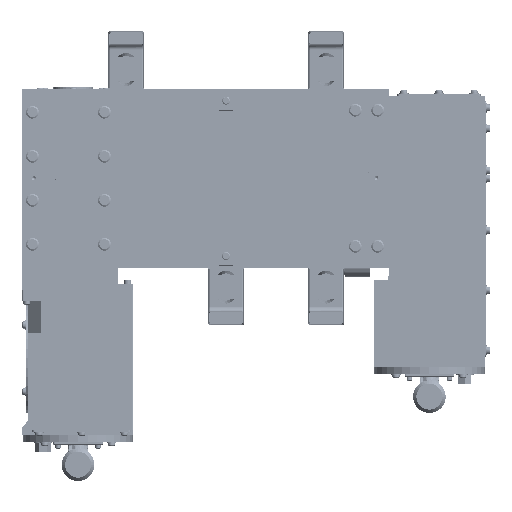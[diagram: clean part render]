
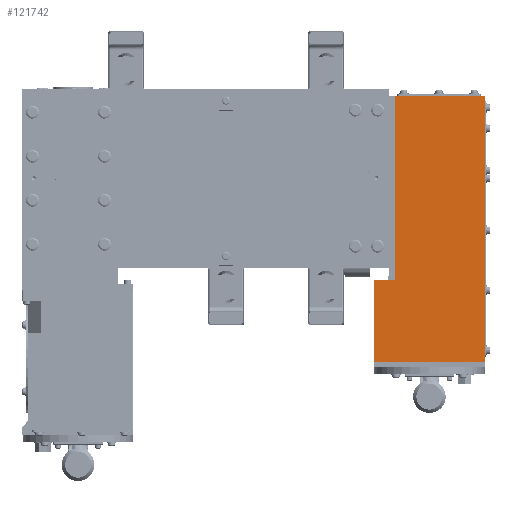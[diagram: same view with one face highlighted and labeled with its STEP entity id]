
A CAD part, front view. The second image highlights one B-rep face of the part: STEP entity #121742.
In plain terms, the highlighted planar face has unit normal (0, -1, 0).
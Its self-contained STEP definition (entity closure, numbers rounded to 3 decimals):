
#348 = ORIENTED_EDGE ( 'NONE', *, *, #159448, .T. ) ;
#1196 = VERTEX_POINT ( 'NONE', #118002 ) ;
#2456 = EDGE_CURVE ( 'NONE', #44956, #96954, #147185, .T. ) ;
#3359 = EDGE_CURVE ( 'NONE', #96954, #19008, #87783, .T. ) ;
#3789 = DIRECTION ( 'NONE',  ( 0., 0., 1. ) ) ;
#4899 = LINE ( 'NONE', #25757, #107798 ) ;
#6375 = ORIENTED_EDGE ( 'NONE', *, *, #49806, .T. ) ;
#7264 = CARTESIAN_POINT ( 'NONE',  ( -138., -197., -127. ) ) ;
#7695 = CARTESIAN_POINT ( 'NONE',  ( 0., -197., -230. ) ) ;
#8606 = VECTOR ( 'NONE', #88104, 1000. ) ;
#19008 = VERTEX_POINT ( 'NONE', #7264 ) ;
#20512 = VECTOR ( 'NONE', #53009, 1000. ) ;
#22699 = CARTESIAN_POINT ( 'NONE',  ( -138., -197., -230. ) ) ;
#25757 = CARTESIAN_POINT ( 'NONE',  ( 0., -197., -230. ) ) ;
#27303 = EDGE_CURVE ( 'NONE', #42680, #105064, #68296, .T. ) ;
#35692 = ORIENTED_EDGE ( 'NONE', *, *, #2456, .F. ) ;
#39121 = CARTESIAN_POINT ( 'NONE',  ( 0., -197., 103. ) ) ;
#42680 = VERTEX_POINT ( 'NONE', #79366 ) ;
#44956 = VERTEX_POINT ( 'NONE', #101624 ) ;
#49806 = EDGE_CURVE ( 'NONE', #113735, #1196, #53562, .T. ) ;
#50008 = ORIENTED_EDGE ( 'NONE', *, *, #59575, .T. ) ;
#50799 = VECTOR ( 'NONE', #109054, 1000. ) ;
#53009 = DIRECTION ( 'NONE',  ( 0., 0., 1. ) ) ;
#53562 = LINE ( 'NONE', #145964, #89344 ) ;
#55033 = CARTESIAN_POINT ( 'NONE',  ( -112., -197., 103. ) ) ;
#55963 = ORIENTED_EDGE ( 'NONE', *, *, #3359, .F. ) ;
#56424 = AXIS2_PLACEMENT_3D ( 'NONE', #164678, #84203, #3789 ) ;
#59575 = EDGE_CURVE ( 'NONE', #1196, #42680, #162237, .T. ) ;
#62961 = EDGE_CURVE ( 'NONE', #105064, #19008, #114061, .T. ) ;
#68296 = LINE ( 'NONE', #88119, #139667 ) ;
#68572 = ORIENTED_EDGE ( 'NONE', *, *, #27303, .T. ) ;
#78342 = VECTOR ( 'NONE', #92530, 1000. ) ;
#79366 = CARTESIAN_POINT ( 'NONE',  ( -112., -197., -127. ) ) ;
#84203 = DIRECTION ( 'NONE',  ( 0., 1., 0. ) ) ;
#87783 = LINE ( 'NONE', #133474, #20512 ) ;
#88104 = DIRECTION ( 'NONE',  ( -1., 0., 0. ) ) ;
#88119 = CARTESIAN_POINT ( 'NONE',  ( 0., -197., -127. ) ) ;
#89344 = VECTOR ( 'NONE', #160084, 1000. ) ;
#90970 = ORIENTED_EDGE ( 'NONE', *, *, #62961, .T. ) ;
#92530 = DIRECTION ( 'NONE',  ( -1., 0., 0. ) ) ;
#96954 = VERTEX_POINT ( 'NONE', #22699 ) ;
#101624 = CARTESIAN_POINT ( 'NONE',  ( 0., -197., -230. ) ) ;
#103126 = EDGE_LOOP ( 'NONE', ( #348, #6375, #50008, #68572, #90970, #55963, #35692 ) ) ;
#105064 = VERTEX_POINT ( 'NONE', #144297 ) ;
#107798 = VECTOR ( 'NONE', #119780, 1000. ) ;
#109054 = DIRECTION ( 'NONE',  ( 0., 0., -1. ) ) ;
#113735 = VERTEX_POINT ( 'NONE', #39121 ) ;
#114061 = LINE ( 'NONE', #119001, #78342 ) ;
#118002 = CARTESIAN_POINT ( 'NONE',  ( -112., -197., 103. ) ) ;
#119001 = CARTESIAN_POINT ( 'NONE',  ( 0., -197., -127. ) ) ;
#119780 = DIRECTION ( 'NONE',  ( 0., 0., 1. ) ) ;
#121742 = ADVANCED_FACE ( 'NONE', ( #147027 ), #123593, .F. ) ;
#123593 = PLANE ( 'NONE',  #56424 ) ;
#133474 = CARTESIAN_POINT ( 'NONE',  ( -138., -197., -230. ) ) ;
#139667 = VECTOR ( 'NONE', #167996, 1000. ) ;
#144297 = CARTESIAN_POINT ( 'NONE',  ( -121., -197., -127. ) ) ;
#145964 = CARTESIAN_POINT ( 'NONE',  ( 0., -197., 103. ) ) ;
#147027 = FACE_OUTER_BOUND ( 'NONE', #103126, .T. ) ;
#147185 = LINE ( 'NONE', #7695, #8606 ) ;
#159448 = EDGE_CURVE ( 'NONE', #44956, #113735, #4899, .T. ) ;
#160084 = DIRECTION ( 'NONE',  ( -1., 0., 0. ) ) ;
#162237 = LINE ( 'NONE', #55033, #50799 ) ;
#164678 = CARTESIAN_POINT ( 'NONE',  ( 0., -197., -230. ) ) ;
#167996 = DIRECTION ( 'NONE',  ( -1., 0., 0. ) ) ;
